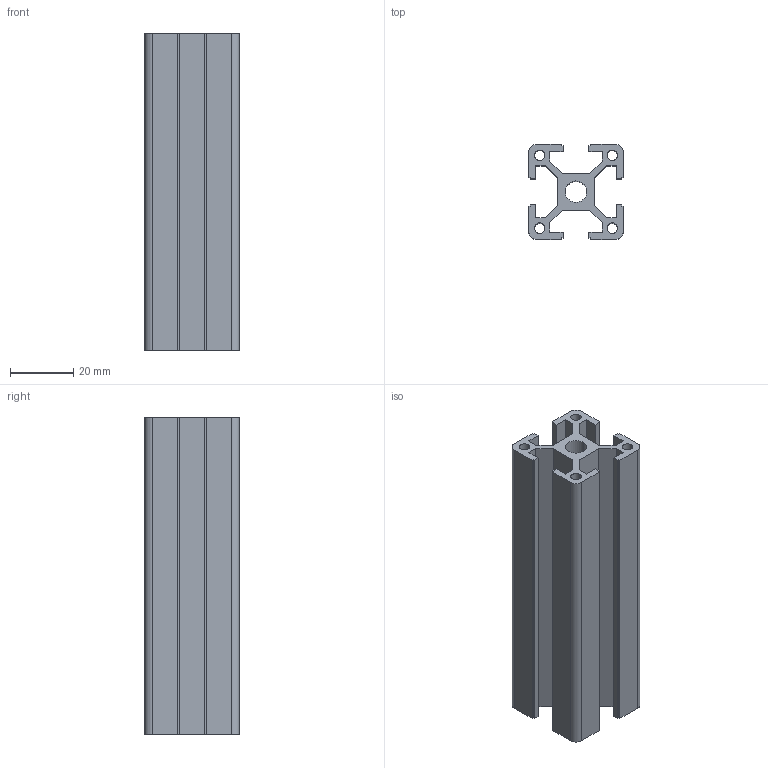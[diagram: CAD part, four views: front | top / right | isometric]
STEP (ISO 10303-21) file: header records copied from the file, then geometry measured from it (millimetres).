
FILE_DESCRIPTION (( 'STEP AP203' ), '1' );
FILE_NAME ('LIMA-3030-8.STEP', '2018-03-15T12:28:43', ( '' ), ( '' ), 'SwSTEP 2.0', 'SolidWorks 2013', '' );
FILE_SCHEMA (( 'CONFIG_CONTROL_DESIGN' ));
Length unit declared in the file: millimetre
Products named in the file (1): LIMA-3030-8
Bounding box: 30 x 30 x 100 mm (x, y, z)
Volume: 34771.1 mm3; surface area: 30738 mm2
Topology: 1 solids, 1 shells, 76 faces, 222 edges, 148 vertices
Faces by surface type: plane 62, cylinder 14
Entity records: 2591 total; most frequent: CARTESIAN_POINT 447, ORIENTED_EDGE 444, DIRECTION 404, EDGE_CURVE 222, VECTOR 194, LINE 194, VERTEX_POINT 148, AXIS2_PLACEMENT_3D 105
